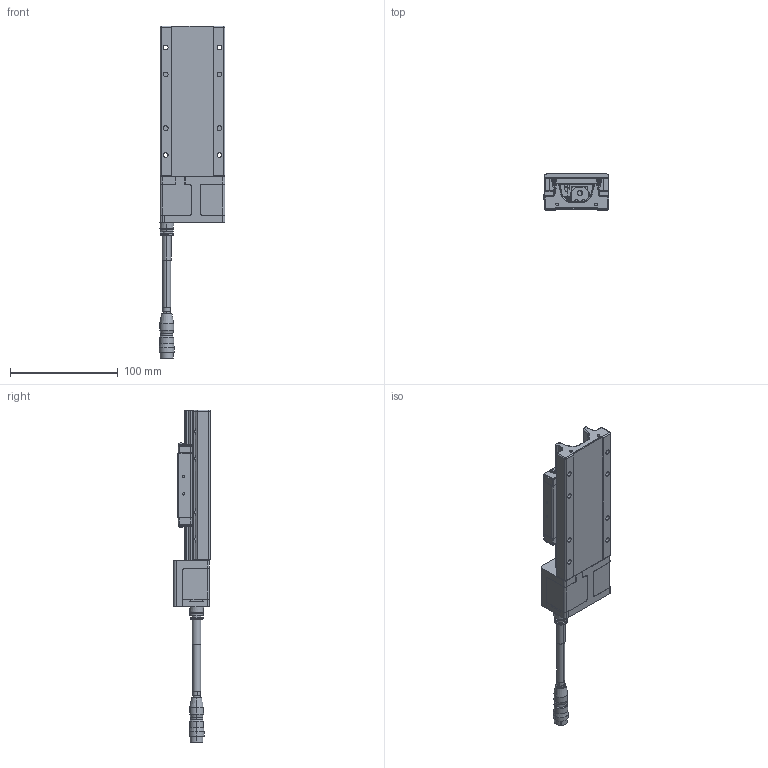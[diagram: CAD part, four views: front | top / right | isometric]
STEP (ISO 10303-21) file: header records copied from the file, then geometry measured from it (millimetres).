
FILE_DESCRIPTION (( 'STEP AP203' ), '1' );
FILE_NAME ('CXN6050-S2?N(µL°¨¹F).S', '2024-01-05T03:17:45', ( '' ), ( '' ), 'SwSTEP 2.0', 'SolidWorks 2019', '' );
FILE_SCHEMA (( 'CONFIG_CONTROL_DESIGN' ));
Length unit declared in the file: millimetre
Products named in the file (4): Group2^CXN6050-S2?N(28框無馬達)_defeature_GMT; Group1^CXN6050-S2?N(28框無馬達)_defeature_GMT; CXN6050-S2?N(無馬達); HR10A-10J-12P_帶線示意
Assembly tree (3 placements, depth 2):
  CXN6050-S2?N(無馬達)
    Group1^CXN6050-S2?N(28框無馬達)_defeature_GMT
    Group2^CXN6050-S2?N(28框無馬達)_defeature_GMT
    HR10A-10J-12P_帶線示意
Bounding box: 61 x 33.5 x 308.5 mm (x, y, z)
Volume: 43493.6 mm3; surface area: 91874 mm2
Topology: 30 solids, 32 shells, 3470 faces, 8797 edges, 5345 vertices
Faces by surface type: plane 1243, cylinder 1082, cone 503, torus 286, sphere 186, bspline 170
Entity records: 110762 total; most frequent: CARTESIAN_POINT 26683, DIRECTION 18460, ORIENTED_EDGE 17216, EDGE_CURVE 8608, AXIS2_PLACEMENT_3D 7103, VERTEX_POINT 5302, LINE 4254, VECTOR 4254
